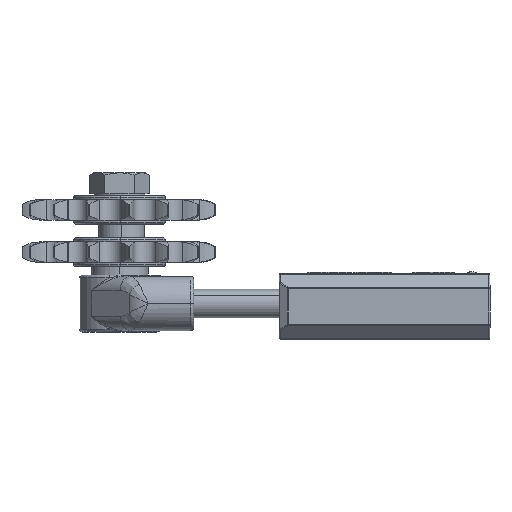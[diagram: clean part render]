
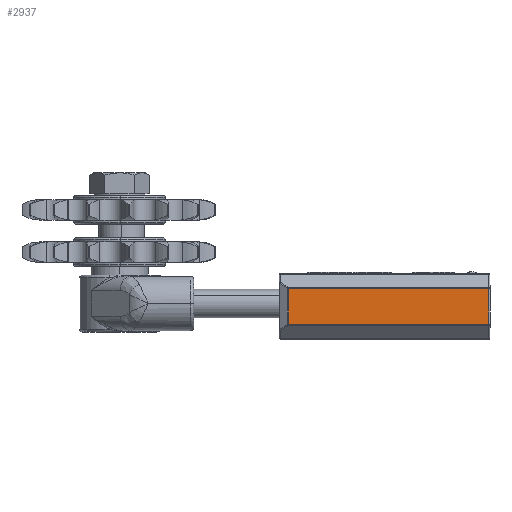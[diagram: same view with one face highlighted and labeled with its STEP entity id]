
A CAD part, left-side view. The second image highlights one B-rep face of the part: STEP entity #2937.
In plain terms, the highlighted planar face has unit normal (-1, 0, 0) as drawn and (1, 0, 0) by its records, which use the part's own axes.
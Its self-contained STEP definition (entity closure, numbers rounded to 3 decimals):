
#1065 = CARTESIAN_POINT ( 'NONE',  ( 25., -34., 5.293 ) ) ;
#2472 = CARTESIAN_POINT ( 'NONE',  ( 25., 36.5, 5.293 ) ) ;
#2676 = VECTOR ( 'NONE', #10992, 1000. ) ;
#2937 = ADVANCED_FACE ( 'NONE', ( #4301 ), #8614, .F. ) ;
#3243 = ORIENTED_EDGE ( 'NONE', *, *, #22637, .T. ) ;
#3346 = LINE ( 'NONE', #15031, #11019 ) ;
#3731 = VERTEX_POINT ( 'NONE', #2472 ) ;
#3765 = CARTESIAN_POINT ( 'NONE',  ( 25., -33.842, -7.5 ) ) ;
#4301 = FACE_OUTER_BOUND ( 'NONE', #17793, .T. ) ;
#4710 = EDGE_CURVE ( 'NONE', #29169, #6819, #21926, .T. ) ;
#6819 = VERTEX_POINT ( 'NONE', #11888 ) ;
#8506 = DIRECTION ( 'NONE',  ( 0., 0., 1. ) ) ;
#8614 = PLANE ( 'NONE',  #26090 ) ;
#8721 = DIRECTION ( 'NONE',  ( -1., 0., 0. ) ) ;
#9840 = ORIENTED_EDGE ( 'NONE', *, *, #4710, .T. ) ;
#10992 = DIRECTION ( 'NONE',  ( 0., 0., -1. ) ) ;
#11019 = VECTOR ( 'NONE', #22843, 1000. ) ;
#11888 = CARTESIAN_POINT ( 'NONE',  ( 25., 36.5, -7.293 ) ) ;
#15031 = CARTESIAN_POINT ( 'NONE',  ( 25., 36.5, 10.5 ) ) ;
#15098 = ORIENTED_EDGE ( 'NONE', *, *, #30426, .T. ) ;
#15179 = CARTESIAN_POINT ( 'NONE',  ( 25., -33.842, 5.293 ) ) ;
#17300 = CARTESIAN_POINT ( 'NONE',  ( 25., 37., -7.293 ) ) ;
#17793 = EDGE_LOOP ( 'NONE', ( #9840, #3243, #23373, #15098 ) ) ;
#18768 = LINE ( 'NONE', #3765, #2676 ) ;
#19790 = DIRECTION ( 'NONE',  ( 0., 1., 0. ) ) ;
#21926 = LINE ( 'NONE', #17300, #29670 ) ;
#22637 = EDGE_CURVE ( 'NONE', #6819, #3731, #3346, .T. ) ;
#22843 = DIRECTION ( 'NONE',  ( 0., 0., 1. ) ) ;
#23373 = ORIENTED_EDGE ( 'NONE', *, *, #31488, .T. ) ;
#24143 = CARTESIAN_POINT ( 'NONE',  ( 25., 37., 10.5 ) ) ;
#24437 = VECTOR ( 'NONE', #24619, 1000. ) ;
#24619 = DIRECTION ( 'NONE',  ( 0., -1., 0. ) ) ;
#26090 = AXIS2_PLACEMENT_3D ( 'NONE', #24143, #8721, #8506 ) ;
#26647 = VERTEX_POINT ( 'NONE', #15179 ) ;
#29169 = VERTEX_POINT ( 'NONE', #29935 ) ;
#29670 = VECTOR ( 'NONE', #19790, 1000. ) ;
#29935 = CARTESIAN_POINT ( 'NONE',  ( 25., -33.842, -7.293 ) ) ;
#30426 = EDGE_CURVE ( 'NONE', #26647, #29169, #18768, .T. ) ;
#31402 = LINE ( 'NONE', #1065, #24437 ) ;
#31488 = EDGE_CURVE ( 'NONE', #3731, #26647, #31402, .T. ) ;
